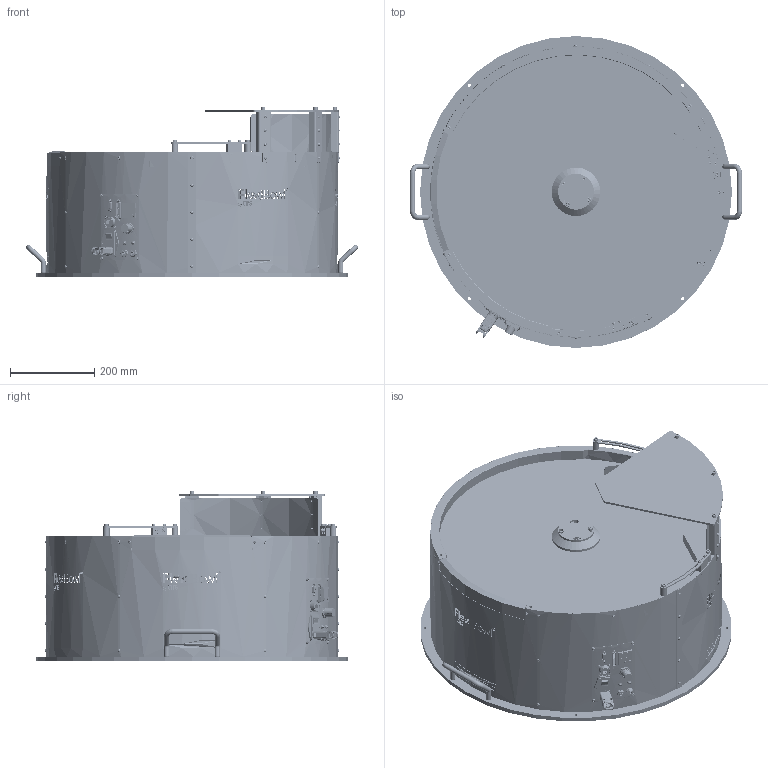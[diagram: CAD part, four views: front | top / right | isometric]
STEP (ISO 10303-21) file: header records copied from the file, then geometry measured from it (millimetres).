
FILE_DESCRIPTION (( 'STEP AP214' ), '1' );
FILE_NAME ('FB650CC Quick emptying.STEP', '2021-09-09T13:38:46', ( '' ), ( '' ), 'SwSTEP 2.0', 'SolidWorks 2020', '' );
FILE_SCHEMA (( 'AUTOMOTIVE_DESIGN' ));
Length unit declared in the file: millimetre
Products named in the file (90): CM000212; CM000008; PD001440; CE000007; PD001652; CM000166; CM000006; Copia di Led RDY_FLT^CE000326; Copia di connector_amet-15rs^CE000302; PD001736; PD000032; CM000015_001; CM000721; PD001121; PD001657; CM000031; CM000179; CE000151; CM000010; PD001103; CM000032; PD001745; PD001426; CM000037; CM000686_002; PD001096; CM000107; Copia di CE000327^CE000327; PD001356; PD000709; CM000017; Copia di 15 poli femmina^CE000302; CM000642; CM000024; CM000728; CE000039; Copia di STR2-M-16-30 Body^CM000730; CE000005; PD001102; Copia di 39-01-2025^CE000327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
Assembly tree (234 placements, depth 4):
  FB650CC Quick emptying
    CM000032  x4
    CM000048  x27
    CM000031  x9
    CM000050  x3
    CM000170  x6
    CM000166  x8
    CM000642  x4
    CM000035  x6
    CM000027  x4
    CM000478  x9
    CM000091  x2
    CM000086  x15
    CM000051  x4
    CM000025  x4
    CM000043  x2
    CM000026  x10
    CM000024  x10
    CM000006  x4
    PD001096
    CM000001  x2
    PD001440  x6
    PD001736  x2
    PD001657
    PD001356
    PD000709
    PD000032
    PD001102
    PD001103
    PD001585  x3
    PD001583  x3
    PD001061
    PD000043  x4
    PD001121  x2
    PD001119  x2
    PD001425
    PD001426
    PD001360_FB650
    CE000007
    CM000015  x2
      CM000015_001
      CM000015_002
    CE000013  x2
    CE000005
    CM000008
      CM000008_001
      CM000008_003  x2
      CM000008_002
      CM000008_004
      CM000008_005
    CE000302
      Copia di connector_a-ds_25_pp-f^CE000302
      Copia di 15 poli femmina^CE000302
      Copia di connector_amet-15rs^CE000302
      Copia di Connettore te 2 poli - Copia^CE000302
      Copia di 39-01-2025^CE000302
    CM000686
      CM000686_001
      CM000686_002
    CE000316
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Bounding box: 787.87 x 740 x 402.5 mm (x, y, z)
Volume: 10894216.6 mm3; surface area: 4540687.4 mm2
Topology: 250 solids, 271 shells, 13920 faces, 35607 edges, 22744 vertices
Faces by surface type: plane 7037, cylinder 3167, cone 1582, bspline 1385, torus 694, sphere 55
Entity records: 479718 total; most frequent: CARTESIAN_POINT 177781, ORIENTED_EDGE 53936, DIRECTION 43587, EDGE_CURVE 27170, VERTEX_POINT 17989, AXIS2_PLACEMENT_3D 15304, LINE 12979, VECTOR 12979
